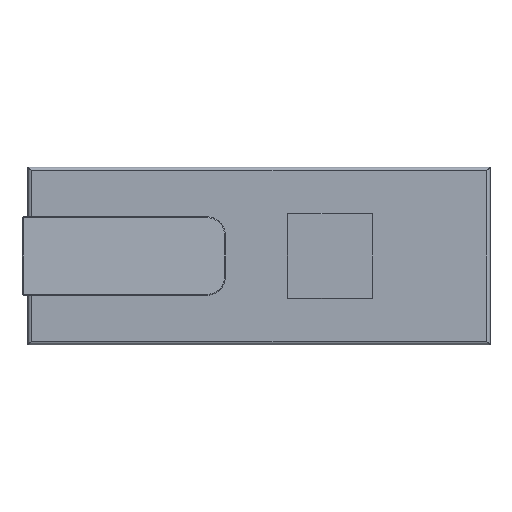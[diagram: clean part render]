
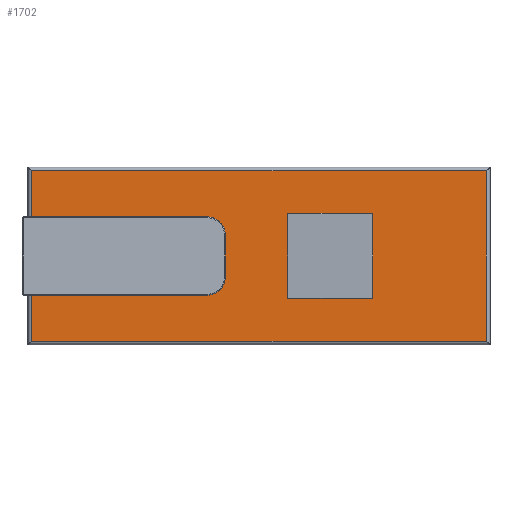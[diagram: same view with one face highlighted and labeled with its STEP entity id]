
A CAD part, left-side view. The second image highlights one B-rep face of the part: STEP entity #1702.
In plain terms, the highlighted planar face has unit normal (-1, 0, 0).
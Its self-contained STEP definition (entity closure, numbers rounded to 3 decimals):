
#322=DIRECTION('',(0.,0.,-1.));
#323=VECTOR('',#322,96.);
#324=CARTESIAN_POINT('',(-7.,128.,48.));
#325=LINE('',#324,#323);
#326=DIRECTION('',(0.,1.,0.));
#327=VECTOR('',#326,256.);
#328=CARTESIAN_POINT('',(-7.,-128.,48.));
#329=LINE('',#328,#327);
#330=DIRECTION('',(0.,0.,1.));
#331=VECTOR('',#330,96.);
#332=CARTESIAN_POINT('',(-7.,-128.,-48.));
#333=LINE('',#332,#331);
#334=DIRECTION('',(0.,-1.,0.));
#335=VECTOR('',#334,256.);
#336=CARTESIAN_POINT('',(-7.,128.,-48.));
#337=LINE('',#336,#335);
#338=CARTESIAN_POINT('',(-7.,-40.,0.));
#339=DIRECTION('',(1.,0.,0.));
#340=DIRECTION('',(0.,0.,1.));
#341=AXIS2_PLACEMENT_3D('',#338,#339,#340);
#343=CARTESIAN_POINT('',(-7.,-40.,0.));
#344=DIRECTION('',(1.,0.,0.));
#345=DIRECTION('',(0.,0.,-1.));
#346=AXIS2_PLACEMENT_3D('',#343,#344,#345);
#348=CARTESIAN_POINT('',(-7.,40.,0.));
#349=DIRECTION('',(1.,0.,0.));
#350=DIRECTION('',(0.,0.,1.));
#351=AXIS2_PLACEMENT_3D('',#348,#349,#350);
#353=CARTESIAN_POINT('',(-7.,40.,0.));
#354=DIRECTION('',(1.,0.,0.));
#355=DIRECTION('',(0.,0.,-1.));
#356=AXIS2_PLACEMENT_3D('',#353,#354,#355);
#1256=CARTESIAN_POINT('',(-7.,-40.,20.75));
#1258=VERTEX_POINT('',#1256);
#1260=CARTESIAN_POINT('',(-7.,-40.,-20.75));
#1262=VERTEX_POINT('',#1260);
#1264=CARTESIAN_POINT('',(-7.,40.,20.75));
#1266=VERTEX_POINT('',#1264);
#1268=CARTESIAN_POINT('',(-7.,40.,-20.75));
#1270=VERTEX_POINT('',#1268);
#1307=CARTESIAN_POINT('',(-7.,128.,48.));
#1308=CARTESIAN_POINT('',(-7.,128.,-48.));
#1309=VERTEX_POINT('',#1307);
#1310=VERTEX_POINT('',#1308);
#1313=CARTESIAN_POINT('',(-7.,-128.,48.));
#1314=VERTEX_POINT('',#1313);
#1317=CARTESIAN_POINT('',(-7.,-128.,-48.));
#1318=VERTEX_POINT('',#1317);
#1677=CARTESIAN_POINT('',(-7.,0.,0.));
#1678=DIRECTION('',(-1.,0.,0.));
#1679=DIRECTION('',(0.,1.,0.));
#1680=AXIS2_PLACEMENT_3D('',#1677,#1678,#1679);
#1681=PLANE('',#1680);
#1683=ORIENTED_EDGE('',*,*,#1682,.F.);
#1685=ORIENTED_EDGE('',*,*,#1684,.F.);
#1686=ORIENTED_EDGE('',*,*,#1655,.F.);
#1687=ORIENTED_EDGE('',*,*,#1667,.F.);
#1688=EDGE_LOOP('',(#1683,#1685,#1686,#1687));
#1689=FACE_OUTER_BOUND('',#1688,.F.);
#1691=ORIENTED_EDGE('',*,*,#1690,.F.);
#1693=ORIENTED_EDGE('',*,*,#1692,.F.);
#1694=EDGE_LOOP('',(#1691,#1693));
#1695=FACE_BOUND('',#1694,.F.);
#1697=ORIENTED_EDGE('',*,*,#1696,.F.);
#1699=ORIENTED_EDGE('',*,*,#1698,.F.);
#1700=EDGE_LOOP('',(#1697,#1699));
#1701=FACE_BOUND('',#1700,.F.);
#1702=ADVANCED_FACE('',(#1689,#1695,#1701),#1681,.T.);
#342=CIRCLE('',#341,20.75);
#347=CIRCLE('',#346,20.75);
#352=CIRCLE('',#351,20.75);
#357=CIRCLE('',#356,20.75);
#1655=EDGE_CURVE('',#1318,#1314,#333,.T.);
#1667=EDGE_CURVE('',#1310,#1318,#337,.T.);
#1682=EDGE_CURVE('',#1309,#1310,#325,.T.);
#1684=EDGE_CURVE('',#1314,#1309,#329,.T.);
#1690=EDGE_CURVE('',#1258,#1262,#342,.T.);
#1692=EDGE_CURVE('',#1262,#1258,#347,.T.);
#1696=EDGE_CURVE('',#1266,#1270,#352,.T.);
#1698=EDGE_CURVE('',#1270,#1266,#357,.T.);
